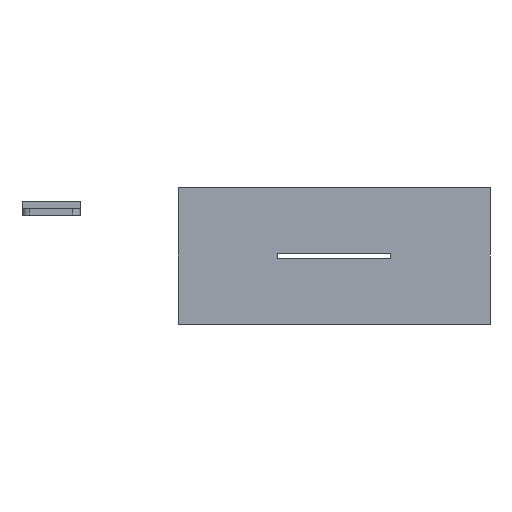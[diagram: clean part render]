
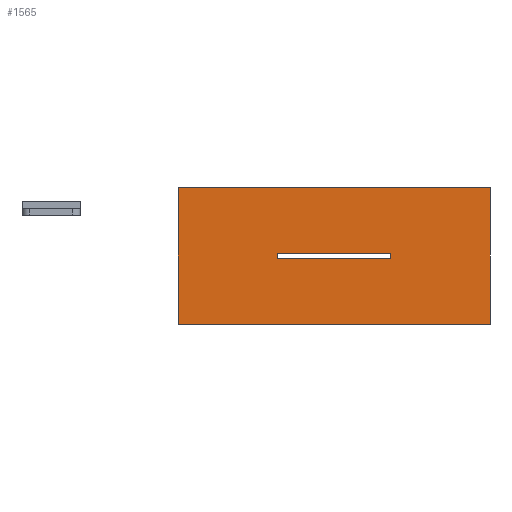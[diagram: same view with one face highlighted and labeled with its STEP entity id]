
A CAD part, front view. The second image highlights one B-rep face of the part: STEP entity #1565.
In plain terms, the highlighted planar face has unit normal (0, -1, 0).
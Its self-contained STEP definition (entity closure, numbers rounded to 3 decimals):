
#115=FACE_BOUND('',#352,.T.);
#147=PLANE('',#1754);
#245=FACE_OUTER_BOUND('',#351,.T.);
#351=EDGE_LOOP('',(#1384,#1385,#1386,#1387));
#352=EDGE_LOOP('',(#1388,#1389,#1390,#1391));
#409=LINE('',#2330,#542);
#462=LINE('',#2491,#595);
#465=LINE('',#2496,#598);
#488=LINE('',#2811,#621);
#491=LINE('',#2816,#624);
#492=LINE('',#2818,#625);
#493=LINE('',#2821,#626);
#495=LINE('',#2824,#628);
#542=VECTOR('',#1835,10.);
#595=VECTOR('',#2002,10.);
#598=VECTOR('',#2007,10.);
#621=VECTOR('',#2194,10.);
#624=VECTOR('',#2199,10.);
#625=VECTOR('',#2202,10.);
#626=VECTOR('',#2205,10.);
#628=VECTOR('',#2209,10.);
#671=VERTEX_POINT('',#2327);
#672=VERTEX_POINT('',#2329);
#722=VERTEX_POINT('',#2488);
#723=VERTEX_POINT('',#2490);
#724=VERTEX_POINT('',#2494);
#758=VERTEX_POINT('',#2810);
#759=VERTEX_POINT('',#2814);
#760=VERTEX_POINT('',#2820);
#811=EDGE_CURVE('',#672,#671,#409,.T.);
#891=EDGE_CURVE('',#723,#722,#462,.T.);
#894=EDGE_CURVE('',#722,#724,#465,.T.);
#966=EDGE_CURVE('',#758,#672,#488,.T.);
#969=EDGE_CURVE('',#671,#759,#491,.T.);
#970=EDGE_CURVE('',#759,#758,#492,.T.);
#971=EDGE_CURVE('',#760,#723,#493,.T.);
#973=EDGE_CURVE('',#724,#760,#495,.T.);
#1384=ORIENTED_EDGE('',*,*,#894,.T.);
#1385=ORIENTED_EDGE('',*,*,#973,.T.);
#1386=ORIENTED_EDGE('',*,*,#971,.T.);
#1387=ORIENTED_EDGE('',*,*,#891,.T.);
#1388=ORIENTED_EDGE('',*,*,#969,.T.);
#1389=ORIENTED_EDGE('',*,*,#970,.T.);
#1390=ORIENTED_EDGE('',*,*,#966,.T.);
#1391=ORIENTED_EDGE('',*,*,#811,.T.);
#1565=ADVANCED_FACE('',(#245,#115),#147,.T.);
#1754=AXIS2_PLACEMENT_3D('',#2825,#2210,#2211);
#1835=DIRECTION('',(1.,0.,0.));
#2002=DIRECTION('',(0.,0.,-1.));
#2007=DIRECTION('',(1.,0.,0.));
#2194=DIRECTION('',(0.,0.,1.));
#2199=DIRECTION('',(0.,0.,-1.));
#2202=DIRECTION('',(-1.,0.,0.));
#2205=DIRECTION('',(-1.,0.,0.));
#2209=DIRECTION('',(0.,0.,1.));
#2210=DIRECTION('center_axis',(0.,-1.,0.));
#2211=DIRECTION('ref_axis',(0.,0.,-1.));
#2327=CARTESIAN_POINT('',(14.6,-26.,8.15));
#2329=CARTESIAN_POINT('',(-14.6,-26.,8.15));
#2330=CARTESIAN_POINT('',(7.3,-26.,8.15));
#2488=CARTESIAN_POINT('',(-40.,-26.,-10.));
#2490=CARTESIAN_POINT('',(-40.,-26.,25.));
#2491=CARTESIAN_POINT('',(-40.,-26.,-10.));
#2494=CARTESIAN_POINT('',(40.,-26.,-10.));
#2496=CARTESIAN_POINT('',(40.,-26.,-10.));
#2810=CARTESIAN_POINT('',(-14.6,-26.,6.85));
#2811=CARTESIAN_POINT('',(-14.6,-26.,7.825));
#2814=CARTESIAN_POINT('',(14.6,-26.,6.85));
#2816=CARTESIAN_POINT('',(14.6,-26.,7.175));
#2818=CARTESIAN_POINT('',(-7.3,-26.,6.85));
#2820=CARTESIAN_POINT('',(40.,-26.,25.));
#2821=CARTESIAN_POINT('',(-40.,-26.,25.));
#2824=CARTESIAN_POINT('',(40.,-26.,25.));
#2825=CARTESIAN_POINT('Origin',(0.,-26.,7.5));
